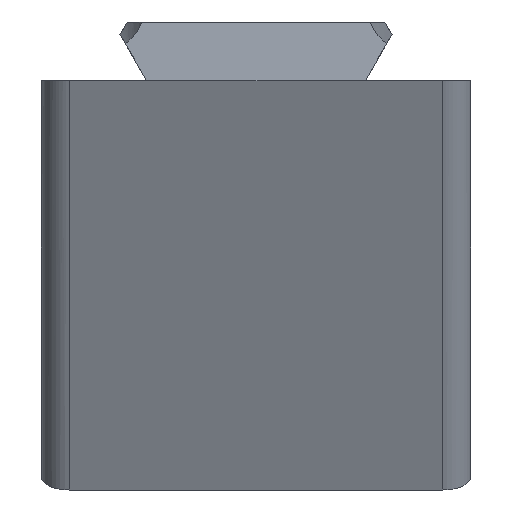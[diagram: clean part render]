
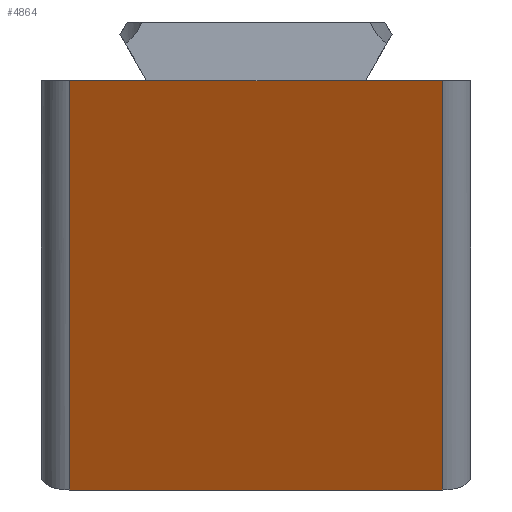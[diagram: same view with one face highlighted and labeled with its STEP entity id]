
A CAD part, left-side view. The second image highlights one B-rep face of the part: STEP entity #4864.
In plain terms, the highlighted planar face has unit normal (-0.899, 0, -0.438).
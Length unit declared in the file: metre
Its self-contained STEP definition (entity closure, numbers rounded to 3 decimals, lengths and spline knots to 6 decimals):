
#756=ORIENTED_EDGE('',*,*,#2000,.T.);
#757=ORIENTED_EDGE('',*,*,#2216,.T.);
#758=ORIENTED_EDGE('',*,*,#1954,.F.);
#759=ORIENTED_EDGE('',*,*,#2217,.T.);
#760=ORIENTED_EDGE('',*,*,#2018,.T.);
#761=ORIENTED_EDGE('',*,*,#2212,.T.);
#1954=EDGE_CURVE('',#2700,#2701,#3197,.T.);
#2000=EDGE_CURVE('',#2747,#2746,#3220,.T.);
#2018=EDGE_CURVE('',#2765,#2764,#3231,.T.);
#2212=EDGE_CURVE('',#2764,#2747,#3319,.T.);
#2216=EDGE_CURVE('',#2746,#2701,#3320,.T.);
#2217=EDGE_CURVE('',#2700,#2765,#3321,.F.);
#2700=VERTEX_POINT('',#6558);
#2701=VERTEX_POINT('',#6560);
#2746=VERTEX_POINT('',#6654);
#2747=VERTEX_POINT('',#6656);
#2764=VERTEX_POINT('',#6690);
#2765=VERTEX_POINT('',#6692);
#3197=LINE('',#6559,#3645);
#3220=LINE('',#6655,#3668);
#3231=LINE('',#6691,#3679);
#3319=LINE('',#7205,#3767);
#3320=LINE('',#7215,#3768);
#3321=LINE('',#7216,#3769);
#3645=VECTOR('',#5467,1.);
#3668=VECTOR('',#5544,1.);
#3679=VECTOR('',#5569,1.);
#3767=VECTOR('',#5763,1.);
#3768=VECTOR('',#5778,1.);
#3769=VECTOR('',#5779,1.);
#4132=EDGE_LOOP('',(#756,#757,#758,#759,#760,#761));
#4444=FACE_BOUND('',#4132,.T.);
#4729=PLANE('',#5228);
#4864=ADVANCED_FACE('',(#4444),#4729,.F.);
#5228=AXIS2_PLACEMENT_3D('',#7214,#5776,#5777);
#5467=DIRECTION('',(0.,1.,0.));
#5544=DIRECTION('',(0.,1.,0.));
#5569=DIRECTION('',(0.,1.,0.));
#5763=DIRECTION('',(0.,1.,0.));
#5776=DIRECTION('',(0.899,0.,0.438));
#5777=DIRECTION('',(0.438,0.,-0.899));
#5778=DIRECTION('',(0.438,0.,-0.899));
#5779=DIRECTION('',(0.438,0.,-0.899));
#6558=CARTESIAN_POINT('',(0.013951,-0.013,-0.028604));
#6559=CARTESIAN_POINT('',(0.013951,-0.015,-0.028604));
#6560=CARTESIAN_POINT('',(0.013951,0.013,-0.028604));
#6654=CARTESIAN_POINT('',(0.,0.013,0.));
#6655=CARTESIAN_POINT('',(0.,-0.015,0.));
#6656=CARTESIAN_POINT('',(0.,0.007695,0.));
#6690=CARTESIAN_POINT('',(0.,-0.007695,0.));
#6691=CARTESIAN_POINT('',(0.,-0.015,0.));
#6692=CARTESIAN_POINT('',(0.,-0.013,0.));
#7205=CARTESIAN_POINT('',(0.,0.,0.));
#7214=CARTESIAN_POINT('',(0.006976,-0.015,-0.014302));
#7215=CARTESIAN_POINT('',(0.006976,0.013,-0.014302));
#7216=CARTESIAN_POINT('',(0.,-0.013,0.));
